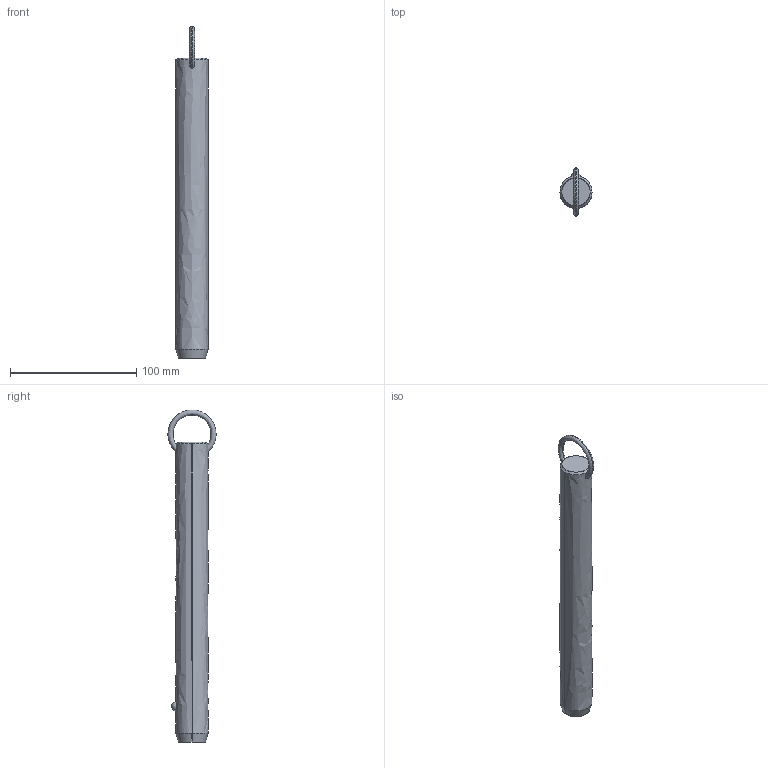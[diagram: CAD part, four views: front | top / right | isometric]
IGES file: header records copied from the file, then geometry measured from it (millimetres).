
Start section: SolidWorks IGES file using analytic representation for surfaces
Global section: file name: C:\Users\liam_\OneDrive\Documents\WORK\Work for WixRoyd\Job Files\J-00019 - Matt Davis CAD Checking\04. CAD Drawings\automotion20190605\P1250.2_v2\P1250.2_v2_20190729_IGES\P1250.100-760.igs; native system: SolidWorks 2017; preprocessor: SolidWorks 2017; author: liam_; date: 190730.175035; units: millimetre
Bounding box: 25.4 x 38.08 x 262.8 mm (x, y, z)
Surface area: 20717 mm2 (no closed solid volume)
Topology: 0 solids, 0 shells, 12 faces, 298 edges, 296 vertices
Faces by surface type: revolution 8, bspline 4
